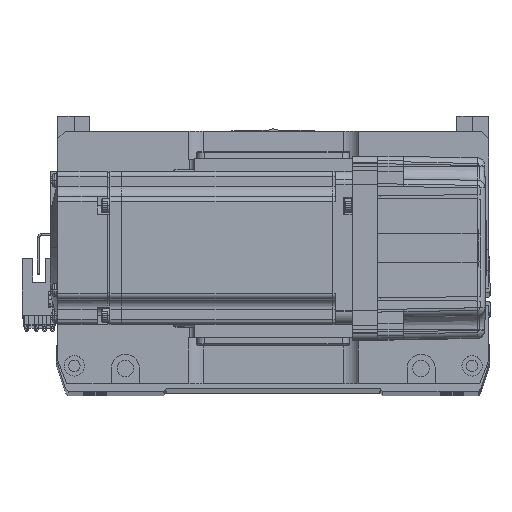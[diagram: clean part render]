
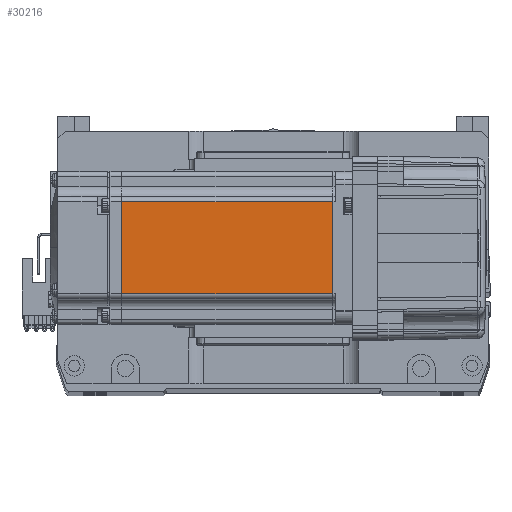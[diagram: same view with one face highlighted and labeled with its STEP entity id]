
A CAD part, top view. The second image highlights one B-rep face of the part: STEP entity #30216.
In plain terms, the highlighted planar face has unit normal (0, 0, 1).
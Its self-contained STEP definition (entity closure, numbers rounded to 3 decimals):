
#3486 = EDGE_CURVE ( 'NONE', #11105, #47914, #60494, .T. ) ;
#3507 = ORIENTED_EDGE ( 'NONE', *, *, #3486, .F. ) ;
#3890 = CARTESIAN_POINT ( 'NONE',  ( -7.75, 18., 30. ) ) ;
#4438 = VERTEX_POINT ( 'NONE', #18187 ) ;
#5864 = CARTESIAN_POINT ( 'NONE',  ( -90.45, 0., 30. ) ) ;
#6562 = VECTOR ( 'NONE', #19559, 1000. ) ;
#8091 = VECTOR ( 'NONE', #51795, 1000. ) ;
#8233 = PLANE ( 'NONE',  #18848 ) ;
#8965 = CARTESIAN_POINT ( 'NONE',  ( -6.5, 18., 30. ) ) ;
#11105 = VERTEX_POINT ( 'NONE', #3890 ) ;
#15596 = VERTEX_POINT ( 'NONE', #53756 ) ;
#15597 = ORIENTED_EDGE ( 'NONE', *, *, #40304, .T. ) ;
#18187 = CARTESIAN_POINT ( 'NONE',  ( -90.45, 18., 30. ) ) ;
#18848 = AXIS2_PLACEMENT_3D ( 'NONE', #42319, #61344, #46764 ) ;
#18963 = LINE ( 'NONE', #8965, #30368 ) ;
#19081 = DIRECTION ( 'NONE',  ( -1., 0., 0. ) ) ;
#19559 = DIRECTION ( 'NONE',  ( 0., -1., 0. ) ) ;
#20418 = DIRECTION ( 'NONE',  ( 0., -1., 0. ) ) ;
#25084 = CARTESIAN_POINT ( 'NONE',  ( -7.75, -18., 30. ) ) ;
#29553 = VECTOR ( 'NONE', #20418, 1000. ) ;
#29720 = EDGE_CURVE ( 'NONE', #47914, #15596, #30016, .T. ) ;
#30016 = LINE ( 'NONE', #61415, #8091 ) ;
#30216 = ADVANCED_FACE ( 'NONE', ( #44408 ), #8233, .T. ) ;
#30368 = VECTOR ( 'NONE', #19081, 1000. ) ;
#32579 = LINE ( 'NONE', #5864, #29553 ) ;
#40304 = EDGE_CURVE ( 'NONE', #11105, #4438, #18963, .T. ) ;
#42319 = CARTESIAN_POINT ( 'NONE',  ( -6.5, -25., 30. ) ) ;
#44408 = FACE_OUTER_BOUND ( 'NONE', #48211, .T. ) ;
#46764 = DIRECTION ( 'NONE',  ( 1., 0., 0. ) ) ;
#47914 = VERTEX_POINT ( 'NONE', #25084 ) ;
#48211 = EDGE_LOOP ( 'NONE', ( #3507, #15597, #51932, #60544 ) ) ;
#51795 = DIRECTION ( 'NONE',  ( -1., 0., 0. ) ) ;
#51932 = ORIENTED_EDGE ( 'NONE', *, *, #59426, .T. ) ;
#53756 = CARTESIAN_POINT ( 'NONE',  ( -90.45, -18., 30. ) ) ;
#58316 = CARTESIAN_POINT ( 'NONE',  ( -7.75, 0., 30. ) ) ;
#59426 = EDGE_CURVE ( 'NONE', #4438, #15596, #32579, .T. ) ;
#60494 = LINE ( 'NONE', #58316, #6562 ) ;
#60544 = ORIENTED_EDGE ( 'NONE', *, *, #29720, .F. ) ;
#61344 = DIRECTION ( 'NONE',  ( 0., 0., 1. ) ) ;
#61415 = CARTESIAN_POINT ( 'NONE',  ( -6.5, -18., 30. ) ) ;
